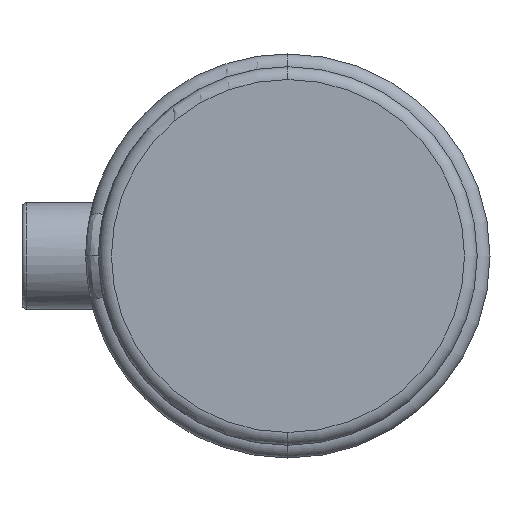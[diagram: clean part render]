
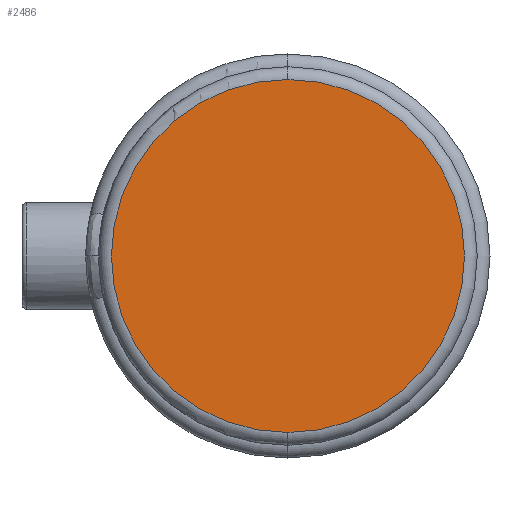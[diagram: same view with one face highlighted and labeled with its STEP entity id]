
A CAD part, left-side view. The second image highlights one B-rep face of the part: STEP entity #2486.
In plain terms, the highlighted planar face has unit normal (-1, 0, 0).
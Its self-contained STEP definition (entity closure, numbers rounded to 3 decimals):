
#14 = CARTESIAN_POINT ( 'NONE',  ( 0., 0., -41.45 ) ) ;
#28 = FACE_OUTER_BOUND ( 'NONE', #1723, .T. ) ;
#163 = DIRECTION ( 'NONE',  ( 0., 0., 1. ) ) ;
#272 = AXIS2_PLACEMENT_3D ( 'NONE', #780, #3968, #1256 ) ;
#572 = PLANE ( 'NONE',  #2703 ) ;
#780 = CARTESIAN_POINT ( 'NONE',  ( 0., 0., 0. ) ) ;
#853 = EDGE_CURVE ( 'NONE', #1958, #4509, #4593, .T. ) ;
#948 = ORIENTED_EDGE ( 'NONE', *, *, #853, .T. ) ;
#992 = ORIENTED_EDGE ( 'NONE', *, *, #1899, .T. ) ;
#1256 = DIRECTION ( 'NONE',  ( 0., 0., 1. ) ) ;
#1338 = CIRCLE ( 'NONE', #272, 41.45 ) ;
#1723 = EDGE_LOOP ( 'NONE', ( #948, #992 ) ) ;
#1899 = EDGE_CURVE ( 'NONE', #4509, #1958, #1338, .T. ) ;
#1958 = VERTEX_POINT ( 'NONE', #5838 ) ;
#2486 = ADVANCED_FACE ( 'NONE', ( #28 ), #572, .T. ) ;
#2703 = AXIS2_PLACEMENT_3D ( 'NONE', #4238, #5646, #2927 ) ;
#2927 = DIRECTION ( 'NONE',  ( 0., 0., 1. ) ) ;
#2999 = DIRECTION ( 'NONE',  ( -1., 0., 0. ) ) ;
#3968 = DIRECTION ( 'NONE',  ( -1., 0., 0. ) ) ;
#4139 = AXIS2_PLACEMENT_3D ( 'NONE', #5714, #2999, #163 ) ;
#4238 = CARTESIAN_POINT ( 'NONE',  ( 0., 0., 0. ) ) ;
#4509 = VERTEX_POINT ( 'NONE', #14 ) ;
#4593 = CIRCLE ( 'NONE', #4139, 41.45 ) ;
#5646 = DIRECTION ( 'NONE',  ( -1., 0., 0. ) ) ;
#5714 = CARTESIAN_POINT ( 'NONE',  ( 0., 0., 0. ) ) ;
#5838 = CARTESIAN_POINT ( 'NONE',  ( 0., 0., 41.45 ) ) ;
